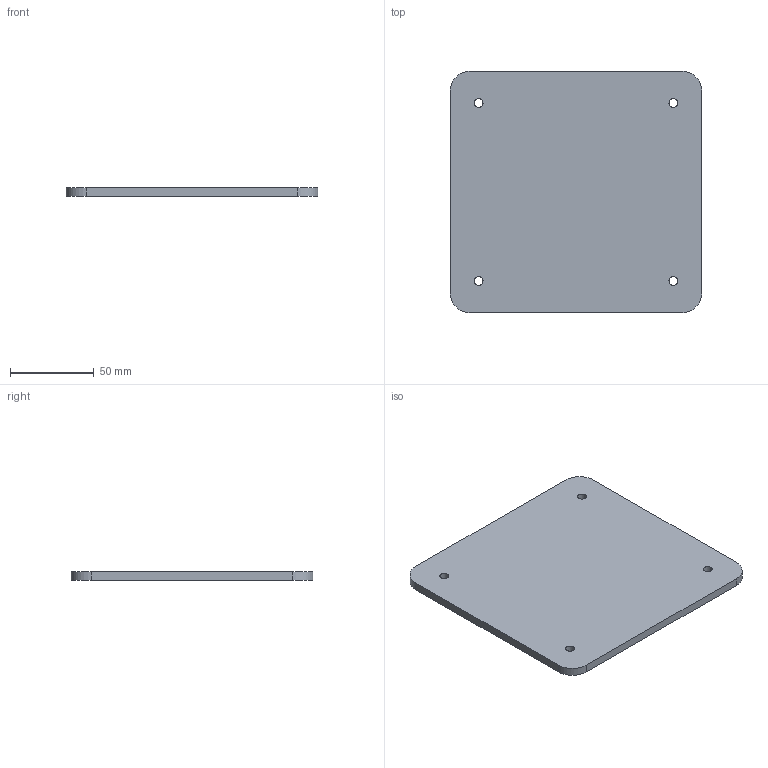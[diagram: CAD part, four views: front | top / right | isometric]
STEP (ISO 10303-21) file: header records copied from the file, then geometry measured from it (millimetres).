
FILE_DESCRIPTION(('Open CASCADE Model'),'2;1');
FILE_NAME('Open CASCADE Shape Model','2026-09-16T16:54:27',('Author'),( 'Open CASCADE'),'Open CASCADE STEP processor 7.8','Open CASCADE 7.8' ,'Unknown');
FILE_SCHEMA(('AUTOMOTIVE_DESIGN { 1 0 10303 214 1 1 1 1 }'));
Length unit declared in the file: millimetre
Products named in the file (1): Open CASCADE STEP translator 7.8 20
Bounding box: 150 x 144 x 5 mm (x, y, z)
Volume: 106957.2 mm3; surface area: 45946.6 mm2
Topology: 1 solids, 1 shells, 14 faces, 36 edges, 24 vertices
Faces by surface type: cylinder 8, plane 6
Full cylindrical faces by diameter (mm): 5.2 x4
Entity records: 966 total; most frequent: CARTESIAN_POINT 219, DIRECTION 142, LINE 76, VECTOR 76, ORIENTED_EDGE 72, PCURVE 72, DEFINITIONAL_REPRESENTATION 72, EDGE_CURVE 36
